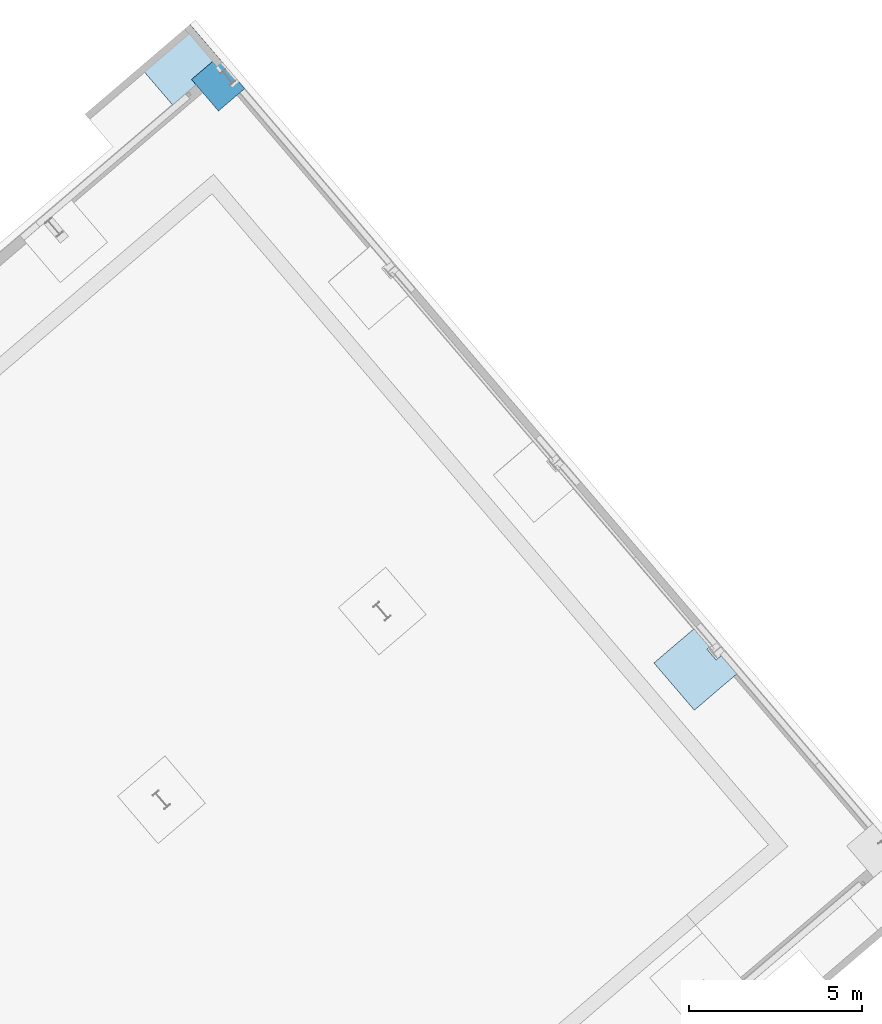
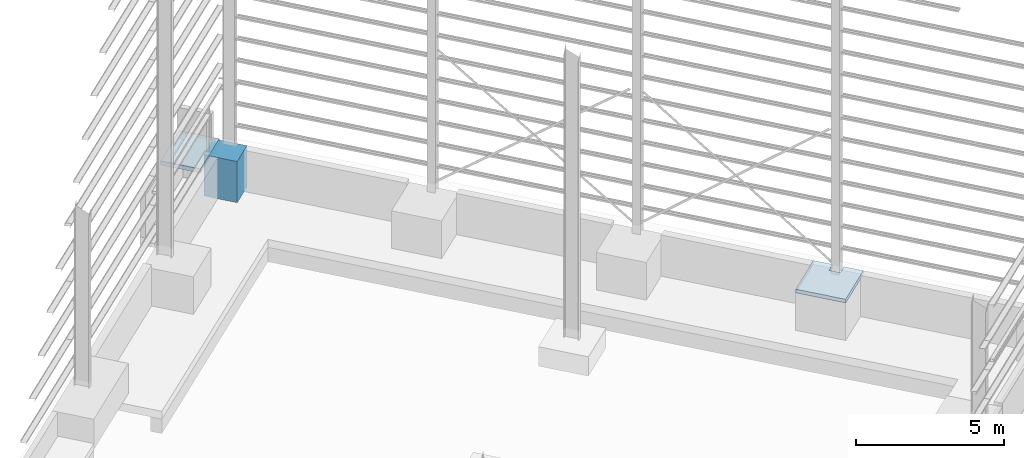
# One storey, part 37 of 41: 3 slabs.
"""IFC2X3 building model written with IfcOpenShell, lengths in millimetres."""

import ifcopenshell
import ifcopenshell.guid

model = None  # the IFC model being written
_history = None  # IfcOwnerHistory: only IFC2X3 demands one
_inside = {}  # id of a spatial element -> (the spatial element, [elements in it])
_under = {}  # id of a project, library or spatial element -> (it, [spatial elements below it])
_declared = {}  # id of a project -> (the project, [libraries it declares])
_typed = {}  # id of a type object -> (the type object, [elements of that type])
_made_of = {}  # id of a material, layer set ... -> (it, [elements and type objects made of it])


def new_model(schema):
    """Start an empty IFC model of exactly this schema.

    Asked for "IFC4X3", IfcOpenShell would pick the latest addendum, in which some entities
    have other attributes; the version numbers below select the first issue.
    IFC2X3 requires an IfcOwnerHistory on every rooted entity: one is made here for all.
    """
    global model, _history
    if schema == "IFC4X3":
        model = ifcopenshell.file(schema_version=(4, 3, 0, 0))
    else:
        model = ifcopenshell.file(schema=schema)
    _inside.clear()
    _under.clear()
    _declared.clear()
    _typed.clear()
    _made_of.clear()
    _history = None
    if model.schema == "IFC2X3":
        org = make("IfcOrganization", Name="unknown")
        user = make(
            "IfcPersonAndOrganization",
            ThePerson=make("IfcPerson", FamilyName="unknown"),
            TheOrganization=org,
        )
        app = make(
            "IfcApplication",
            ApplicationDeveloper=org,
            Version="unknown",
            ApplicationFullName="unknown",
            ApplicationIdentifier="unknown",
        )
        _history = make(
            "IfcOwnerHistory",
            OwningUser=user,
            OwningApplication=app,
            ChangeAction="ADDED",
            CreationDate=0,
        )
    return model


def make(cls, **values):
    """One entity of the class cls with the attributes given. An attribute that is None is left unset."""
    return model.create_entity(
        cls, **{name: value for name, value in values.items() if value is not None}
    )


def entity(cls, *values):
    """Any entity or typed value of the class cls, its attributes in the order of the schema. None: left unset."""
    e = model.create_entity(cls)
    for i, value in enumerate(values):
        if value is not None:
            e[i] = value
    return e


def rooted(cls, **values):
    """An entity with a GlobalId (a new one), such as an element, a storey or a relation."""
    return make(cls, GlobalId=ifcopenshell.guid.new(), OwnerHistory=_history, **values)


def si_unit(unit_type, name, prefix=None):
    """IfcSIUnit, for example si_unit("LENGTHUNIT", "METRE", prefix="MILLI")."""
    return make("IfcSIUnit", UnitType=unit_type, Prefix=prefix, Name=name)


def converted_unit(unit_type, name, factor, base, dimensions=None, offset=None):
    """IfcConversionBasedUnit, such as the inch: factor (a typed value) times the base unit."""
    return make(
        "IfcConversionBasedUnit"
        if offset is None
        else "IfcConversionBasedUnitWithOffset",
        ConversionOffset=offset,
        Dimensions=None
        if dimensions is None
        else entity("IfcDimensionalExponents", *dimensions),
        UnitType=unit_type,
        Name=name,
        ConversionFactor=make(
            "IfcMeasureWithUnit", ValueComponent=factor, UnitComponent=base
        ),
    )


def derived_unit(unit_type, elements):
    """IfcDerivedUnit: a product of units, each with its exponent."""
    return make(
        "IfcDerivedUnit",
        Elements=[
            make("IfcDerivedUnitElement", Unit=unit, Exponent=power)
            for unit, power in elements
        ],
        UnitType=unit_type,
    )


def assignment(units):
    """IfcUnitAssignment: the units of a project."""
    return None if units is None else make("IfcUnitAssignment", Units=units)


def point(xyz):
    """IfcCartesianPoint."""
    return None if xyz is None else make("IfcCartesianPoint", Coordinates=xyz)


def direction(xyz):
    """IfcDirection."""
    return None if xyz is None else make("IfcDirection", DirectionRatios=xyz)


def frame(location, z_axis=None, x_axis=None):
    """IfcAxis2Placement3D, a coordinate frame: its origin and axes. An axis left out is left unset."""
    return make(
        "IfcAxis2Placement3D",
        Location=point(location),
        Axis=direction(z_axis),
        RefDirection=direction(x_axis),
    )


def frame_2d(location, x_axis=None):
    """IfcAxis2Placement2D, a coordinate frame in the plane: its origin and x axis."""
    return make(
        "IfcAxis2Placement2D", Location=point(location), RefDirection=direction(x_axis)
    )


def origin():
    """The frame at (0, 0, 0) with its axes left unset."""
    return frame((0.0, 0.0, 0.0))


def place(relative_to, where):
    """IfcLocalPlacement: puts the frame where relative to a parent placement (None: the world)."""
    return make(
        "IfcLocalPlacement", PlacementRelTo=relative_to, RelativePlacement=where
    )


def context(
    kind, dimensions, precision=None, world=None, true_north=None, identifier=None
):
    """IfcGeometricRepresentationContext, for example the 3D "Model" context."""
    return make(
        "IfcGeometricRepresentationContext",
        ContextIdentifier=identifier,
        ContextType=kind,
        CoordinateSpaceDimension=dimensions,
        Precision=precision,
        WorldCoordinateSystem=world,
        TrueNorth=true_north,
    )


def subcontext(parent, identifier, kind, view, scale=None):
    """IfcGeometricRepresentationSubContext, for example "Body" below "Model"."""
    return make(
        "IfcGeometricRepresentationSubContext",
        ContextIdentifier=identifier,
        ContextType=kind,
        ParentContext=parent,
        TargetScale=scale,
        TargetView=view,
    )


def project(units=None, contexts=None):
    """IfcProject with its units and contexts."""
    return rooted(
        "IfcProject",
        Name="project",
        RepresentationContexts=contexts,
        UnitsInContext=assignment(units),
    )


def spatial(cls, under=None, at=None, **own):
    """A site, building, storey or space (cls), placed at a placement, below another one or the project."""
    s = rooted(cls, ObjectPlacement=at, **own)
    if under is not None:
        _under.setdefault(under.id(), (under, []))[1].append(s)
    return s


def polyline(points):
    """IfcPolyline through the points."""
    return make("IfcPolyline", Points=[point(p) for p in points])


def profile(cls, at=None, kind="AREA", **sizes):
    """A parametric profile (cls). Its sizes go by their IFC names, for example OverallWidth=200.0."""
    return make(cls, ProfileType=kind, Position=at, **sizes)


def rectangle(**sizes):
    """IfcRectangleProfileDef."""
    return profile("IfcRectangleProfileDef", **sizes)


def outline(outer, holes=None, kind="AREA"):
    """IfcArbitraryClosedProfileDef: a profile drawn as a closed curve; with holes, ...WithVoids."""
    if holes is None:
        return make("IfcArbitraryClosedProfileDef", ProfileType=kind, OuterCurve=outer)
    return make(
        "IfcArbitraryProfileDefWithVoids",
        ProfileType=kind,
        OuterCurve=outer,
        InnerCurves=holes,
    )


def extrude(swept, where, along, depth):
    """IfcExtrudedAreaSolid: the profile swept, set in the frame where, extruded along a direction by depth."""
    return make(
        "IfcExtrudedAreaSolid",
        SweptArea=swept,
        Position=where,
        ExtrudedDirection=direction(along),
        Depth=depth,
    )


def shape(context_of_items, identifier, shape_type, items):
    """IfcShapeRepresentation: the items that make up one representation, for example the "Body"."""
    return make(
        "IfcShapeRepresentation",
        ContextOfItems=context_of_items,
        RepresentationIdentifier=identifier,
        RepresentationType=shape_type,
        Items=items,
    )


def material(Name=None, Category=None):
    """IfcMaterial."""
    return make("IfcMaterial", Name=Name, Category=Category)


def layer(
    of_material, thickness, ventilated=None, Name=None, Category=None, Priority=None
):
    """IfcMaterialLayer: one layer of a wall or slab, of a material (None: an air gap)."""
    return make(
        "IfcMaterialLayer",
        Material=of_material,
        LayerThickness=thickness,
        IsVentilated=ventilated,
        Name=Name,
        Category=Category,
        Priority=Priority,
    )


def layer_set(layers, Name=None):
    """IfcMaterialLayerSet."""
    return make("IfcMaterialLayerSet", MaterialLayers=layers, LayerSetName=Name)


def layer_usage(for_layer_set, set_direction, sense, offset, extent=None):
    """IfcMaterialLayerSetUsage: how a layer set lies in its element."""
    return make(
        "IfcMaterialLayerSetUsage",
        ForLayerSet=for_layer_set,
        LayerSetDirection=set_direction,
        DirectionSense=sense,
        OffsetFromReferenceLine=offset,
        ReferenceExtent=extent,
    )


def made_of(thing, what):
    """Note that an element or type object is made of a material, layer set ...; save() writes the relation."""
    if what is not None:
        _made_of.setdefault(what.id(), (what, []))[1].append(thing)
    return thing


def type_object(cls, material=None, **own):
    """A type object (cls), such as IfcWallType, which elements share."""
    return made_of(rooted(cls, **own), material)


def element(
    cls,
    number,
    at=None,
    inside=None,
    cuts=None,
    type_object=None,
    material=None,
    context=None,
    identifier="Body",
    shape_type=None,
    held_by="IfcProductDefinitionShape",
    body=None,
    shapes=None,
    **own,
):
    """One element of the class cls, such as IfcWall. Its Tag is "e" and its number.

    at: its placement. inside: the storey or other place that contains it. cuts: it is an
    opening in that element (IfcRelVoidsElement). A single representation is given by context,
    identifier, shape_type and body (its items); several are given by shapes. held_by: the class
    of the entity that holds the representations. save() writes the other relations.
    """
    e = rooted(cls, Tag="e%d" % number, ObjectPlacement=at, **own)
    if body is not None:
        shapes = [shape(context, identifier, shape_type, body)]
    if shapes is not None:
        e.Representation = make(held_by, Representations=shapes)
    if inside is not None:
        _inside.setdefault(inside.id(), (inside, []))[1].append(e)
    if cuts is not None:
        rooted(
            "IfcRelVoidsElement", RelatingBuildingElement=cuts, RelatedOpeningElement=e
        )
    if type_object is not None:
        _typed.setdefault(type_object.id(), (type_object, []))[1].append(e)
    return made_of(e, material)


def aggregate(whole, parts):
    """IfcRelAggregates: a whole, such as a stair, and the parts it consists of."""
    return rooted("IfcRelAggregates", RelatingObject=whole, RelatedObjects=parts)


def save(model, path):
    """Write the relations noted so far, then the file.

    IfcRelAggregates (storeys below a building ...), IfcRelContainedInSpatialStructure (elements
    in a storey), IfcRelDefinesByType, IfcRelAssociatesMaterial and IfcRelDeclares: one each for
    every whole, place, type object, material and project.
    """
    for whole, parts in _under.values():
        aggregate(whole, parts)
    for where, things in _inside.values():
        rooted(
            "IfcRelContainedInSpatialStructure",
            RelatedElements=things,
            RelatingStructure=where,
        )
    for kind, things in _typed.values():
        rooted("IfcRelDefinesByType", RelatedObjects=things, RelatingType=kind)
    for what, things in _made_of.values():
        rooted("IfcRelAssociatesMaterial", RelatedObjects=things, RelatingMaterial=what)
    for by, libraries in _declared.values():
        rooted("IfcRelDeclares", RelatingContext=by, RelatedDefinitions=libraries)
    model.write(path)


model = new_model("IFC2X3")

# Units and contexts
model_context = context("Model", 3, precision=0.01, world=origin(), true_north=direction((6.123031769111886e-17, 1.0)))
body_context = subcontext(model_context, "Body", "Model", "MODEL_VIEW")
ifc_project = project(units=[si_unit("LENGTHUNIT", "METRE", prefix="MILLI"), si_unit("AREAUNIT", "SQUARE_METRE"), si_unit("VOLUMEUNIT", "CUBIC_METRE"), converted_unit("PLANEANGLEUNIT", "DEGREE", entity("IfcRatioMeasure", 0.017453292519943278), si_unit("PLANEANGLEUNIT", "RADIAN"), dimensions=[0, 0, 0, 0, 0, 0, 0]), si_unit("MASSUNIT", "GRAM", prefix="KILO"), derived_unit("MASSDENSITYUNIT", [(si_unit("MASSUNIT", "GRAM", prefix="KILO"), 1), (si_unit("LENGTHUNIT", "METRE"), -3)]), derived_unit("MOMENTOFINERTIAUNIT", [(si_unit("LENGTHUNIT", "METRE"), 4)]), si_unit("TIMEUNIT", "SECOND"), si_unit("FREQUENCYUNIT", "HERTZ"), si_unit("THERMODYNAMICTEMPERATUREUNIT", "DEGREE_CELSIUS"), derived_unit("THERMALTRANSMITTANCEUNIT", [(si_unit("MASSUNIT", "GRAM", prefix="KILO"), 1), (si_unit("THERMODYNAMICTEMPERATUREUNIT", "KELVIN"), -1), (si_unit("TIMEUNIT", "SECOND"), -3)]), derived_unit("VOLUMETRICFLOWRATEUNIT", [(si_unit("LENGTHUNIT", "METRE"), 3), (si_unit("TIMEUNIT", "SECOND"), -1)]), derived_unit("MASSFLOWRATEUNIT", [(si_unit("MASSUNIT", "GRAM", prefix="KILO"), 1), (si_unit("TIMEUNIT", "SECOND"), -1)]), derived_unit("ROTATIONALFREQUENCYUNIT", [(si_unit("TIMEUNIT", "SECOND"), -1)]), si_unit("ELECTRICCURRENTUNIT", "AMPERE"), si_unit("ELECTRICVOLTAGEUNIT", "VOLT"), si_unit("POWERUNIT", "WATT"), si_unit("FORCEUNIT", "NEWTON", prefix="KILO"), si_unit("ILLUMINANCEUNIT", "LUX"), si_unit("LUMINOUSFLUXUNIT", "LUMEN"), si_unit("LUMINOUSINTENSITYUNIT", "CANDELA"), derived_unit("USERDEFINED", [(si_unit("MASSUNIT", "GRAM", prefix="KILO"), -1), (si_unit("LENGTHUNIT", "METRE"), -2), (si_unit("TIMEUNIT", "SECOND"), 3), (si_unit("LUMINOUSFLUXUNIT", "LUMEN"), 1)]), derived_unit("SOUNDPOWERUNIT", [(si_unit("MASSUNIT", "GRAM", prefix="KILO"), 1), (si_unit("LENGTHUNIT", "METRE"), 2), (si_unit("TIMEUNIT", "SECOND"), -3)]), derived_unit("LINEARVELOCITYUNIT", [(si_unit("LENGTHUNIT", "METRE"), 1), (si_unit("TIMEUNIT", "SECOND"), -1)]), si_unit("PRESSUREUNIT", "PASCAL"), derived_unit("USERDEFINED", [(si_unit("LENGTHUNIT", "METRE"), -2), (si_unit("MASSUNIT", "GRAM", prefix="KILO"), 1), (si_unit("TIMEUNIT", "SECOND"), -2)]), derived_unit("LINEARFORCEUNIT", [(si_unit("MASSUNIT", "GRAM", prefix="KILO"), 1), (si_unit("LENGTHUNIT", "METRE"), 1), (si_unit("TIMEUNIT", "SECOND"), -2), (si_unit("LENGTHUNIT", "METRE"), -1)]), derived_unit("PLANARFORCEUNIT", [(si_unit("MASSUNIT", "GRAM", prefix="KILO"), 1), (si_unit("LENGTHUNIT", "METRE"), 1), (si_unit("TIMEUNIT", "SECOND"), -2), (si_unit("LENGTHUNIT", "METRE"), -2)])], contexts=[model_context])

# Site, building, storey
site_placement = place(None, frame((962.4174930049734, -6014.433753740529, 0.0), z_axis=(0.0, 0.0, 1.0), x_axis=(0.7601792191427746, 0.649713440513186, 0.0)))
site = spatial("IfcSite", under=ifc_project, at=site_placement, Name="Default", CompositionType="ELEMENT")
building_placement = place(site_placement, origin())
building = spatial("IfcBuilding", under=site, at=building_placement, CompositionType="ELEMENT")
storey_placement = place(building_placement, origin())
storey = spatial("IfcBuildingStorey", under=building, at=storey_placement, Name="Datum", CompositionType="ELEMENT", Elevation=0.0)

# Slabs
ifc_material = material(Name="GHD-Concrete-Concrete_InSitu")
slab_type_1 = type_object("IfcSlabType", Name="FT-GHD-Pad:1700x1000x1000", PredefinedType="BASESLAB", material=ifc_material)
slab_1_placement = place(storey_placement, origin())
element("IfcSlab", 1, at=slab_1_placement, inside=storey, type_object=slab_type_1, Name="FT-GHD-Pad:1700x1000x1000", ObjectType="FT-GHD-Pad:1700x1000x1000", PredefinedType="BASESLAB", context=body_context, shape_type="SweptSolid", body=[
    extrude(rectangle(XDim=999.9999999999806, YDim=1199.999999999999, at=frame_2d((0.0, 5.115907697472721e-13), x_axis=(1.0, 0.0))), frame((185447.56020470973, 3460.0719178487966, -1900.0)), (0.0, 0.0, 1.0), 1699.9999999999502),
])
ifc_layer_1 = layer(ifc_material, 170.0)
ifc_layer_set_1 = layer_set([ifc_layer_1], Name="Floor:FL-GHD-Cast In Situ - Concrete 170")
ifc_layer_usage_1 = layer_usage(ifc_layer_set_1, "AXIS3", "POSITIVE", 0.0)
slab_type_2 = type_object("IfcSlabType", Name="Floor:FL-GHD-Cast In Situ - Concrete 170", PredefinedType="FLOOR", material=ifc_layer_set_1)
slab_2_placement = place(building_placement, origin())
element("IfcSlab", 2, at=slab_2_placement, inside=storey, type_object=slab_type_2, material=ifc_layer_usage_1, Name="Floor:FL-GHD-Cast In Situ - Concrete 170", ObjectType="Floor:FL-GHD-Cast In Situ - Concrete 170", PredefinedType="FLOOR", context=body_context, shape_type="SweptSolid", body=[
    extrude(rectangle(XDim=1435.999999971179, YDim=1899.9999999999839, at=frame_2d((-6.554046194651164e-11, 0.0), x_axis=(1.0, 0.0))), frame((185001.5602047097, 4577.071917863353, -150.0), z_axis=(0.0, 0.0, -1.0), x_axis=(0.0, 1.0, 0.0)), (0.0, 0.0, 1.0), 170.0),
])
ifc_layer_2 = layer(ifc_material, 150.0)
ifc_layer_set_2 = layer_set([ifc_layer_2], Name="Floor:FL-GHD-Cast In Situ - Concrete 150")
ifc_layer_usage_2 = layer_usage(ifc_layer_set_2, "AXIS3", "POSITIVE", 0.0)
slab_type_3 = type_object("IfcSlabType", Name="Floor:FL-GHD-Cast In Situ - Concrete 150", PredefinedType="FLOOR")
slab_3_placement = place(storey_placement, frame((184149.5602047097, -19272.078856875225, -350.0)))
element("IfcSlab", 3, at=slab_3_placement, inside=storey, type_object=slab_type_3, material=ifc_layer_usage_2, Name="Floor:FL-GHD-Cast In Situ - Concrete 150", ObjectType="Floor:FL-GHD-Cast In Situ - Concrete 150", PredefinedType="FLOOR", context=body_context, shape_type="SweptSolid", body=[
    extrude(outline(polyline([(-900.0, -7046.849225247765), (-527.3999999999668, -7046.849225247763), (-527.3999999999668, -7453.849225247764), (-900.0, -7453.849225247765), (-900.0, -8151.612499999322), (900.0, -8151.612499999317), (900.0, -6351.6124999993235), (-900.0, -6351.612499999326), (-900.0, -7046.849225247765)])), frame((900.0, 8151.612499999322, 150.0), z_axis=(0.0, 0.0, -1.0), x_axis=(-1.0, 0.0, 0.0)), (0.0, 0.0, 1.0), 150.0),
])

save(model, "model.ifc")
